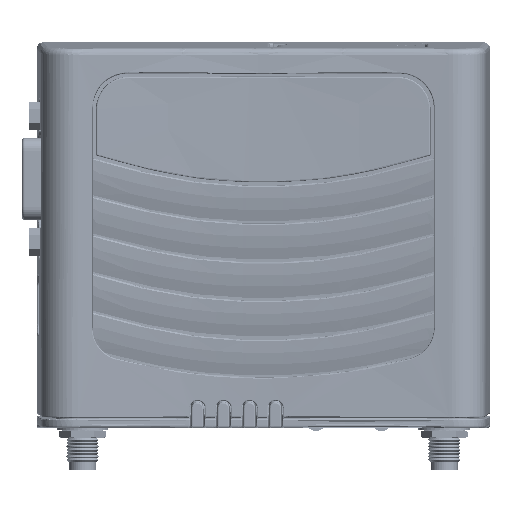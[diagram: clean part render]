
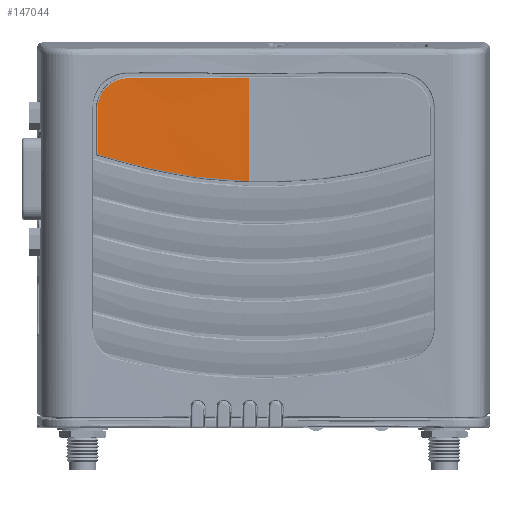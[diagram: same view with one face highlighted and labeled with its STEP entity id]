
A CAD part, top view. The second image highlights one B-rep face of the part: STEP entity #147044.
In plain terms, the highlighted face is a extrusion surface.
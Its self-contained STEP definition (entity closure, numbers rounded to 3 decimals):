
#90033=CARTESIAN_POINT('',(-26.566,30.536,
18.533));
#90034=CARTESIAN_POINT('',(-26.959,30.533,
18.555));
#90035=CARTESIAN_POINT('',(-27.75,30.453,
18.6));
#90036=CARTESIAN_POINT('',(-28.903,30.099,
18.668));
#90037=CARTESIAN_POINT('',(-29.977,29.53,
18.733));
#90038=CARTESIAN_POINT('',(-30.923,28.76,
18.791));
#90039=CARTESIAN_POINT('',(-31.689,27.811,
18.839));
#90040=CARTESIAN_POINT('',(-32.253,26.735,
18.875));
#90041=CARTESIAN_POINT('',(-32.602,25.581,
18.897));
#90042=CARTESIAN_POINT('',(-32.679,24.792,
18.902));
#90043=CARTESIAN_POINT('',(-32.68,24.4,
18.902));
#90056=DIRECTION('',(0.,1.,0.));
#90057=VECTOR('',#90056,8.892);
#90058=CARTESIAN_POINT('',(-32.68,15.508,
18.902));
#90059=LINE('',#90058,#90057);
#90063=CARTESIAN_POINT('',(-26.566,30.536,
18.533));
#90064=CARTESIAN_POINT('',(-18.636,30.559,
18.088));
#90065=CARTESIAN_POINT('',(-10.696,30.575,
17.788));
#90066=CARTESIAN_POINT('',(-2.756,30.575,
17.788));
#90071=DIRECTION('',(0.,-1.,0.));
#90072=VECTOR('',#90071,20.277);
#90073=CARTESIAN_POINT('',(-2.756,30.575,
17.788));
#90074=LINE('',#90073,#90072);
#90078=CARTESIAN_POINT('',(-3.866,10.312,
17.79));
#90079=CARTESIAN_POINT('',(-8.761,10.408,
17.807));
#90080=CARTESIAN_POINT('',(-18.517,11.608,
18.065));
#90081=CARTESIAN_POINT('',(-27.992,14.108,
18.601));
#90082=CARTESIAN_POINT('',(-32.68,15.508,
18.902));
#90868=CARTESIAN_POINT('',(-3.866,10.312,
17.79));
#90869=CARTESIAN_POINT('',(-3.496,10.305,
17.789));
#90870=CARTESIAN_POINT('',(-3.126,10.3,
17.788));
#90871=CARTESIAN_POINT('',(-2.756,10.298,
17.788));
#96091=CARTESIAN_POINT('',(-32.68,24.4,
18.902));
#96092=VERTEX_POINT('',#96091);
#96093=CARTESIAN_POINT('',(-32.68,15.508,
18.902));
#96094=VERTEX_POINT('',#96093);
#96095=VERTEX_POINT('',#90033);
#96097=VERTEX_POINT('',#90066);
#96098=CARTESIAN_POINT('',(-2.756,10.298,
17.788));
#96099=VERTEX_POINT('',#96098);
#96100=VERTEX_POINT('',#90868);
#147021=CARTESIAN_POINT('',(-32.979,-37.5,18.921));
#147022=CARTESIAN_POINT('',(-32.88,-37.5,18.915));
#147023=CARTESIAN_POINT('',(-28.155,-37.5,18.611));
#147024=CARTESIAN_POINT('',(-18.085,-37.5,18.042));
#147025=CARTESIAN_POINT('',(-8.004,-37.5,17.786));
#147026=CARTESIAN_POINT('',(-2.556,-37.5,17.788));
#147027=CARTESIAN_POINT('',(-2.456,-37.5,17.789));
#147029=DIRECTION('',(0.,-1.,0.));
#147030=VECTOR('',#147029,1.);
#147031=SURFACE_OF_LINEAR_EXTRUSION('',#147028,#147030);
#147032=ORIENTED_EDGE('',*,*,#146959,.T.);
#147033=ORIENTED_EDGE('',*,*,#147011,.F.);
#147035=ORIENTED_EDGE('',*,*,#147034,.T.);
#147037=ORIENTED_EDGE('',*,*,#147036,.T.);
#147039=ORIENTED_EDGE('',*,*,#147038,.F.);
#147041=ORIENTED_EDGE('',*,*,#147040,.T.);
#147042=EDGE_LOOP('',(#147032,#147033,#147035,#147037,#147039,#147041));
#147043=FACE_OUTER_BOUND('',#147042,.F.);
#90044=B_SPLINE_CURVE_WITH_KNOTS('',3,(#90033,#90034,#90035,#90036,#90037,
#90038,#90039,#90040,#90041,#90042,#90043),.UNSPECIFIED.,.F.,.F.,(4,1,1,1,1,1,1,
1,4),(0.,0.125,0.25,0.375,0.5,0.625,0.75,0.875,1.),
.UNSPECIFIED.);
#90067=B_SPLINE_CURVE_WITH_KNOTS('',3,(#90063,#90064,#90065,#90066),
.UNSPECIFIED.,.F.,.F.,(4,4),(0.,1.),.UNSPECIFIED.);
#90083=B_SPLINE_CURVE_WITH_KNOTS('',3,(#90078,#90079,#90080,#90081,#90082),
.UNSPECIFIED.,.F.,.F.,(4,1,4),(0.,0.5,1.),.UNSPECIFIED.);
#90872=B_SPLINE_CURVE_WITH_KNOTS('',3,(#90868,#90869,#90870,#90871),
.UNSPECIFIED.,.F.,.F.,(4,4),(0.,1.),.UNSPECIFIED.);
#146959=EDGE_CURVE('',#96094,#96092,#90059,.T.);
#147011=EDGE_CURVE('',#96095,#96092,#90044,.T.);
#147028=B_SPLINE_CURVE_WITH_KNOTS('',3,(#147021,#147022,#147023,#147024,#147025,
#147026,#147027),.UNSPECIFIED.,.F.,.F.,(4,1,1,1,4),(0.,0.01,
0.465,0.99,1.),.UNSPECIFIED.);
#147034=EDGE_CURVE('',#96095,#96097,#90067,.T.);
#147036=EDGE_CURVE('',#96097,#96099,#90074,.T.);
#147038=EDGE_CURVE('',#96100,#96099,#90872,.T.);
#147040=EDGE_CURVE('',#96100,#96094,#90083,.T.);
#147044=ADVANCED_FACE('',(#147043),#147031,.F.);
